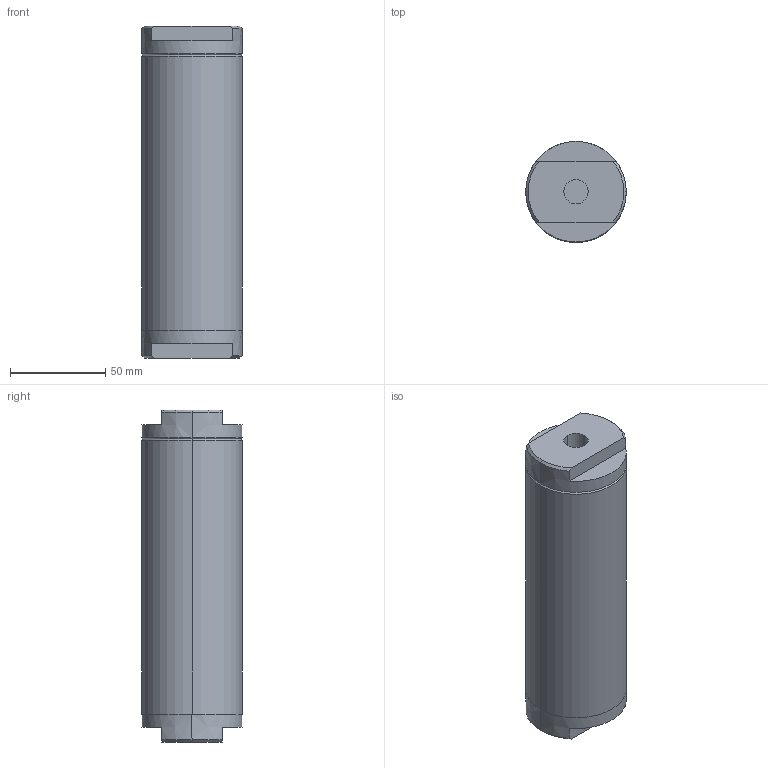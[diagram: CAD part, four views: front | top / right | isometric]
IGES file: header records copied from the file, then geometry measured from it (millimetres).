
Global section: file name: C:\Documents and Settings\Administrator\My Documents\PersonalProject\volumetank.igs; native system: AutoDesk Inventor R2.0 ; preprocessor: AutoDesk Inventor Iges Exporter R2.0; author: No Author specified; organization: No Organization specified; date: 20020115.192745; units: inch
Bounding box: 52.7 x 52.7 x 173.99 mm (x, y, z)
Surface area: 42477.3 mm2 (no closed solid volume)
Topology: 0 solids, 0 shells, 40 faces, 180 edges, 180 vertices
Faces by surface type: revolution 26, bspline 14
